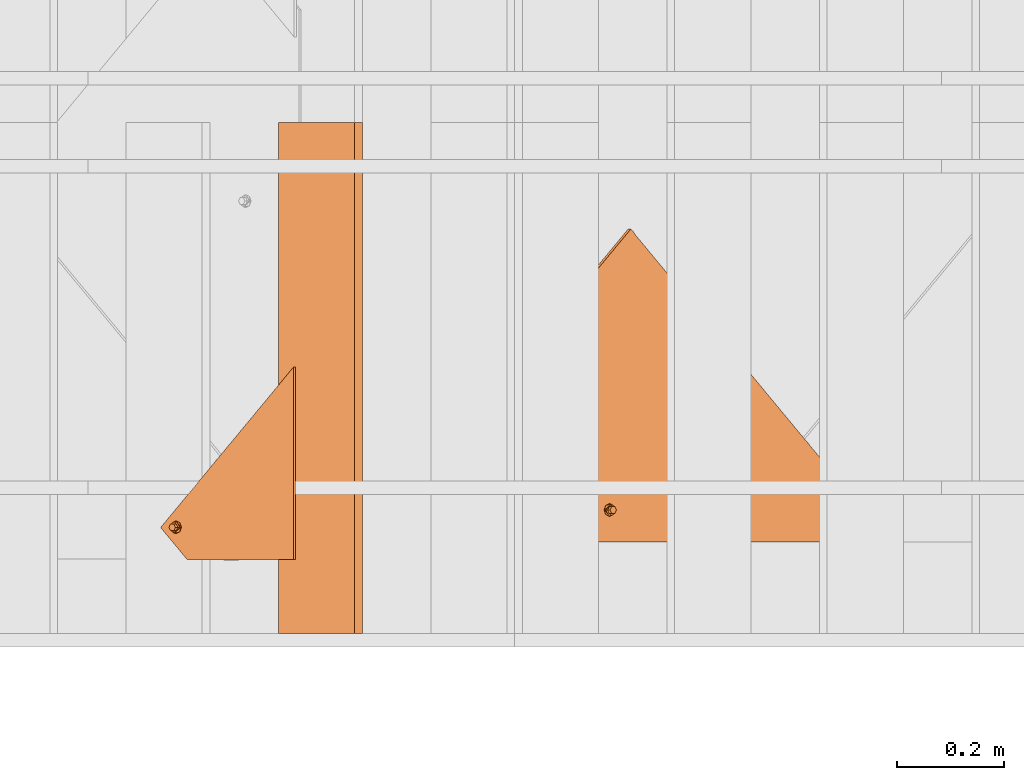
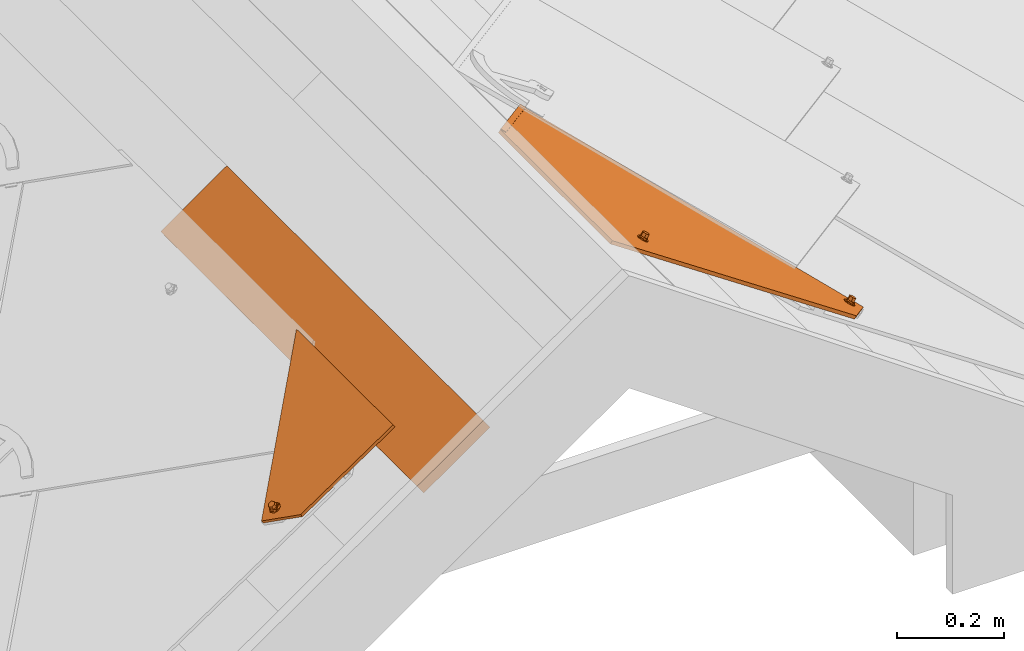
# One storey, part 98 of 133: 3 proxies, 1 element without a shape of its own.
"""IFC2X3 building model written with IfcOpenShell, lengths in millimetres."""

from ifc_helpers import new_model, entity, si_unit, converted_unit, derived_unit, direction, frame, frame_2d, origin, place, context, subcontext, project, spatial, rectangle, extrude, faceted_brep, source, transform, mapped, material, material_list, type_object, type_shapes, element, aggregate, save


model = new_model("IFC2X3")

# Units and contexts
model_context = context("Model", 3, precision=0.01, world=origin(), true_north=direction((6.12303176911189e-17, 1.0)))
body_context = subcontext(model_context, "Body", "Model", "MODEL_VIEW")
ifc_project = project(units=[si_unit("LENGTHUNIT", "METRE", prefix="MILLI"), si_unit("AREAUNIT", "SQUARE_METRE"), si_unit("VOLUMEUNIT", "CUBIC_METRE"), converted_unit("PLANEANGLEUNIT", "DEGREE", entity("IfcRatioMeasure", 0.0174532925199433), si_unit("PLANEANGLEUNIT", "RADIAN"), dimensions=[0, 0, 0, 0, 0, 0, 0]), si_unit("MASSUNIT", "GRAM", prefix="KILO"), derived_unit("MASSDENSITYUNIT", [(si_unit("MASSUNIT", "GRAM", prefix="KILO"), 1), (si_unit("LENGTHUNIT", "METRE"), -3)]), si_unit("TIMEUNIT", "SECOND"), si_unit("FREQUENCYUNIT", "HERTZ"), si_unit("THERMODYNAMICTEMPERATUREUNIT", "DEGREE_CELSIUS"), derived_unit("THERMALTRANSMITTANCEUNIT", [(si_unit("MASSUNIT", "GRAM", prefix="KILO"), 1), (si_unit("THERMODYNAMICTEMPERATUREUNIT", "KELVIN"), -1), (si_unit("TIMEUNIT", "SECOND"), -3)]), derived_unit("VOLUMETRICFLOWRATEUNIT", [(si_unit("LENGTHUNIT", "METRE"), 3), (si_unit("TIMEUNIT", "SECOND"), -1)]), si_unit("ELECTRICCURRENTUNIT", "AMPERE"), si_unit("ELECTRICVOLTAGEUNIT", "VOLT"), si_unit("POWERUNIT", "WATT"), si_unit("FORCEUNIT", "NEWTON", prefix="KILO"), si_unit("ILLUMINANCEUNIT", "LUX"), si_unit("LUMINOUSFLUXUNIT", "LUMEN"), si_unit("LUMINOUSINTENSITYUNIT", "CANDELA"), derived_unit("USERDEFINED", [(si_unit("MASSUNIT", "GRAM", prefix="KILO"), -1), (si_unit("LENGTHUNIT", "METRE"), -2), (si_unit("TIMEUNIT", "SECOND"), 3), (si_unit("LUMINOUSFLUXUNIT", "LUMEN"), 1)]), derived_unit("LINEARVELOCITYUNIT", [(si_unit("LENGTHUNIT", "METRE"), 1), (si_unit("TIMEUNIT", "SECOND"), -1)]), si_unit("PRESSUREUNIT", "PASCAL"), derived_unit("USERDEFINED", [(si_unit("LENGTHUNIT", "METRE"), -2), (si_unit("MASSUNIT", "GRAM", prefix="KILO"), 1), (si_unit("TIMEUNIT", "SECOND"), -2)])], contexts=[model_context])

# Site, building, storey
site_placement = place(None, origin())
site = spatial("IfcSite", under=ifc_project, at=site_placement, Name="Default", CompositionType="ELEMENT")
building_placement = place(site_placement, origin())
building = spatial("IfcBuilding", under=site, at=building_placement, CompositionType="ELEMENT")
storey_placement = place(building_placement, origin())
storey = spatial("IfcBuildingStorey", under=building, at=storey_placement, Name="Level 1", CompositionType="ELEMENT", Elevation=0.0)

# Assembly, proxy
assembly_placement = place(storey_placement, origin())
assembly = element("IfcElementAssembly", 1, at=assembly_placement, inside=storey, Name="Structural Framing Assembly:Roof Construction Assembly", ObjectType="Structural Framing Assembly:Roof Construction Assembly", AssemblyPlace="NOTDEFINED", PredefinedType="USERDEFINED")
ifc_material_1 = material(Name="Wood - Generic - Wood For Showcase")
building_element_proxy_type_1 = type_object("IfcBuildingElementProxyType", Name="Structural Framing 15", PredefinedType="NOTDEFINED", material=ifc_material_1)
shared_shape_1 = source(origin(), body_context, "Body", "SweptSolid", [
    extrude(rectangle(XDim=24.9999999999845, YDim=174.344679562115, at=frame_2d((-1.77635683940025e-13, -4.54747350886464e-13), x_axis=(0.0, 1.0))), frame((1128.20180147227, 2967.09519417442, 2760.23940055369), z_axis=(0.0, 1.0, 0.0), x_axis=(-0.819152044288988, 0.0, -0.573576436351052)), (0.0, 0.0, 1.0), 958.455607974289),
])
type_shapes(building_element_proxy_type_1, [shared_shape_1])
proxy_1_placement = place(assembly_placement, frame((-285.629601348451, -9670.0, -200.0)))
proxy_1 = element("IfcBuildingElementProxy", 2, at=proxy_1_placement, type_object=building_element_proxy_type_1, material=ifc_material_1, Name="Structural Framing 29:Structural Framing 15", ObjectType="Structural Framing 29:Structural Framing 15", context=body_context, shape_type="MappedRepresentation", body=[
    mapped(shared_shape_1, transform((0.0, 0.0, 0.0), scale=1.0)),
])
aggregate(assembly, [proxy_1])

# Proxies
ifc_material_2 = material(Name="Rubber - Sunstyle - Black")
ifc_material_3 = material(Name="Glass - Sunstyle - Tainted Black")
ifc_material_list_1 = material_list([ifc_material_2, ifc_material_3])
ifc_material_list_2 = material_list([ifc_material_2, ifc_material_3])
building_element_proxy_type_2 = type_object("IfcBuildingElementProxyType", Name="Corner Top Small Right - Black", PredefinedType="NOTDEFINED", material=ifc_material_list_2)
shared_shape_2 = source(origin(), body_context, "Body", "Brep", [
    faceted_brep([(300.309183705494, 41.6050579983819, 1.59527223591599), (294.534980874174, 38.2717878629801, 1.65109621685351), (294.534980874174, 38.6400969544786, 23.6429655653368), (300.309183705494, 41.9733670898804, 23.5871415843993), (294.534980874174, 31.6052475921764, 1.76274417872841), (294.534980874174, 31.9735566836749, 23.7546135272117), (300.309183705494, 28.2719774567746, 1.81856815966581), (300.309183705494, 28.640286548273, 23.8104375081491), (306.083386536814, 31.6052475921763, 1.7627441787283), (306.083386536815, 31.9735566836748, 23.7546135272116), (306.083386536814, 38.2717878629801, 1.65109621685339), (306.083386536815, 38.6400969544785, 23.6429655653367), (291.705479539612, 26.704328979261, 23.8428599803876), (300.309183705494, 23.1410577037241, 23.9025359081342), (288.141708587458, 35.3068268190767, 23.6987895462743), (291.705479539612, 43.9093246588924, 23.5547191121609), (300.309183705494, 47.4725959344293, 23.4950431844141), (308.912887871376, 43.9093246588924, 23.5547191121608), (312.476658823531, 35.3068268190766, 23.6987895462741), (308.912887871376, 26.704328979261, 23.8428599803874), (288.984939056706, 37.6019039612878, 26.0116314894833), (290.552709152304, 35.3778417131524, 27.9391141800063), (300.309183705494, 42.6909169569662, 28.5718145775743), (300.309183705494, 43.9314145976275, 27.9914679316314), (300.309183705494, 46.0889654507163, 26.98209285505), (300.309183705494, 23.6971017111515, 25.1775938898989), (300.309183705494, 24.6406783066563, 27.3412982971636), (300.309183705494, 28.0900540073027, 28.8163427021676), (300.309183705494, 46.9595598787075, 24.7880055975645), (293.985938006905, 31.7402697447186, 28.7552106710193), (293.985938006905, 39.0407012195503, 28.6329466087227), (311.633428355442, 33.0904837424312, 26.0871865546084), (310.15806385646, 34.3034352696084, 27.8602460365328), (306.632429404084, 39.0407012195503, 28.6329466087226), (306.632429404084, 31.7402697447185, 28.7552106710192), (293.985938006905, 31.8742982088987, 36.7580988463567), (300.309183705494, 28.224082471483, 36.8192308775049), (300.309183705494, 35.5245139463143, 36.6969668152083), (293.985938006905, 39.17472968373, 36.6358347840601), (306.632429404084, 31.8742982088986, 36.7580988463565), (306.632429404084, 39.1747296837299, 36.6358347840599), (300.309183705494, 42.8249454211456, 36.5747027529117), (300.309183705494, 34.9385177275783, 1.7069201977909)], [[[0, 1, 2, 3]], [[1, 4, 5, 2]], [[4, 6, 7, 5]], [[6, 8, 9, 7]], [[8, 10, 11, 9]], [[10, 0, 3, 11]], [[12, 7, 13]], [[7, 12, 5]], [[14, 5, 12]], [[5, 14, 2]], [[15, 2, 14]], [[3, 2, 15]], [[15, 16, 3]], [[16, 17, 3]], [[11, 3, 17]], [[11, 17, 18]], [[9, 11, 18]], [[18, 19, 9]], [[7, 9, 19]], [[19, 13, 7]], [[20, 14, 12]], [[21, 22, 23, 24]], [[24, 20, 21]], [[25, 20, 12]], [[26, 27, 21]], [[15, 14, 20]], [[12, 13, 25]], [[20, 28, 15]], [[28, 20, 24]], [[21, 27, 29]], [[21, 29, 30]], [[26, 21, 20]], [[20, 25, 26]], [[15, 28, 16]], [[21, 30, 22]], [[31, 18, 17]], [[28, 31, 17]], [[32, 27, 26]], [[26, 31, 32]], [[26, 25, 31]], [[25, 19, 31]], [[17, 16, 28]], [[31, 19, 18]], [[24, 31, 28]], [[33, 34, 32]], [[23, 22, 33]], [[24, 32, 31]], [[27, 32, 34]], [[32, 23, 33]], [[19, 25, 13]], [[32, 24, 23]], [[35, 36, 37]], [[37, 38, 35]], [[36, 39, 37]], [[40, 37, 39]], [[37, 40, 41]], [[37, 41, 38]], [[42, 6, 4]], [[4, 1, 42]], [[1, 0, 42]], [[42, 8, 6]], [[0, 10, 42]], [[8, 42, 10]], [[22, 30, 38, 41]], [[30, 29, 35, 38]], [[29, 27, 36, 35]], [[27, 34, 39, 36]], [[34, 33, 40, 39]], [[33, 22, 41, 40]]]),
    faceted_brep([(300.700466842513, 0.125588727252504, 24.1962208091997), (304.302649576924, 28.4261395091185, 23.7222570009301), (302.373201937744, 27.6270481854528, 23.7356397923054), (305.959503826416, 29.6973102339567, 23.7009680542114), (300.302649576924, 27.3544930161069, 23.7402044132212), (307.230852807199, 31.3539321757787, 23.6732237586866), (360.803898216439, 60.2121670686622, 23.189920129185), (298.232097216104, 27.6270481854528, 23.7356397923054), (296.302649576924, 28.4261395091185, 23.7222570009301), (294.645795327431, 29.6973102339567, 23.7009680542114), (293.374446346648, 31.3539321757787, 23.6732237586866), (292.575242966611, 33.2831092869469, 23.6409148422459), (0.0, 300.741739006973, 19.1616482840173), (308.030056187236, 33.2831092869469, 23.6409148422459), (308.302649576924, 35.3533713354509, 23.6062431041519), (308.030056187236, 37.4236333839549, 23.5715713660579), (307.230852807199, 39.3528104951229, 23.5392624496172), (305.959503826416, 41.0094324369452, 23.5115181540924), (304.302649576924, 42.2806031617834, 23.4902292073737), (302.373201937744, 43.079694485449, 23.4768464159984), (300.302649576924, 43.3522496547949, 23.4722817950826), (360.803898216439, 300.741739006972, 19.1616482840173), (298.232097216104, 43.079694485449, 23.4768464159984), (296.302649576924, 42.2806031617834, 23.4902292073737), (294.645795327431, 41.009432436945, 23.5115181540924), (292.302649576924, 35.3533713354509, 23.6062431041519), (292.575242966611, 37.4236333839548, 23.5715713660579), (293.374446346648, 39.3528104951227, 23.5392624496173), (300.302649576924, 43.2266609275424, 15.9733333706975), (360.803898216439, 300.616150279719, 11.6626998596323), (360.803898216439, 60.0865783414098, 15.6909717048), (302.373201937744, 42.9541057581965, 15.9778979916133), (298.232097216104, 42.9541057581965, 15.9778979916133), (296.302649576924, 42.1550144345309, 15.9912807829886), (0.0, 300.61615027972, 11.6626998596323), (294.645795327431, 40.8838437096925, 16.0125697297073), (293.374446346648, 39.2272217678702, 16.0403140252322), (292.575242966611, 37.2980446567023, 16.0726229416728), (292.302649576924, 35.2277826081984, 16.1072946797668), (292.575242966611, 33.1575205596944, 16.1419664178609), (300.700466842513, 0.0, 16.6972723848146), (293.374446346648, 31.2283434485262, 16.1742753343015), (294.645795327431, 29.5717215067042, 16.2020196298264), (296.302649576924, 28.300550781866, 16.2233085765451), (298.232097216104, 27.5014594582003, 16.2366913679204), (300.302649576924, 27.2289042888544, 16.2412559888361), (302.373201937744, 27.5014594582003, 16.2366913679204), (304.302649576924, 28.300550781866, 16.2233085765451), (305.959503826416, 29.5717215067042, 16.2020196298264), (307.230852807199, 31.2283434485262, 16.1742753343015), (308.030056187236, 33.1575205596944, 16.1419664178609), (308.302649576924, 35.2277826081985, 16.1072946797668), (308.030056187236, 37.2980446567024, 16.0726229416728), (307.230852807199, 39.2272217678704, 16.0403140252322), (305.959503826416, 40.8838437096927, 16.0125697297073), (304.302649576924, 42.1550144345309, 15.9912807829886)], [[[0, 1, 2]], [[1, 0, 3]], [[0, 2, 4]], [[5, 3, 0]], [[5, 0, 6]], [[4, 7, 0]], [[7, 8, 0]], [[8, 9, 0]], [[9, 10, 0]], [[10, 11, 0]], [[0, 11, 12]], [[6, 13, 5]], [[14, 13, 6]], [[15, 14, 6]], [[16, 15, 6]], [[17, 16, 6]], [[6, 18, 17]], [[19, 18, 6]], [[19, 6, 20]], [[6, 21, 20]], [[20, 21, 22]], [[23, 22, 21]], [[12, 23, 21]], [[23, 12, 24]], [[11, 25, 12]], [[26, 12, 25]], [[26, 27, 12]], [[27, 24, 12]], [[28, 29, 30]], [[28, 30, 31]], [[32, 29, 28]], [[32, 33, 29]], [[29, 33, 34]], [[33, 35, 34]], [[35, 36, 34]], [[36, 37, 34]], [[34, 37, 38]], [[38, 39, 34]], [[40, 34, 39]], [[39, 41, 40]], [[41, 42, 40]], [[42, 43, 40]], [[44, 40, 43]], [[44, 45, 40]], [[46, 40, 45]], [[40, 46, 47]], [[47, 48, 40]], [[48, 49, 40]], [[50, 30, 49]], [[30, 40, 49]], [[50, 51, 30]], [[30, 51, 52]], [[52, 53, 30]], [[53, 54, 30]], [[54, 55, 30]], [[31, 30, 55]], [[0, 12, 34, 40]], [[6, 0, 40, 30]], [[25, 38, 37, 26]], [[26, 37, 36, 27]], [[23, 24, 35, 33]], [[35, 24, 27, 36]], [[22, 23, 33, 32]], [[22, 32, 28, 20]], [[20, 28, 31, 19]], [[19, 31, 55, 18]], [[16, 17, 54, 53]], [[54, 17, 18, 55]], [[15, 16, 53, 52]], [[15, 52, 51, 14]], [[14, 51, 50, 13]], [[13, 50, 49, 5]], [[1, 3, 48, 47]], [[48, 3, 5, 49]], [[2, 1, 47, 46]], [[2, 46, 45, 4]], [[4, 45, 44, 7]], [[7, 44, 43, 8]], [[10, 9, 42, 41]], [[42, 9, 8, 43]], [[11, 10, 41, 39]], [[11, 39, 38, 25]], [[12, 21, 29, 34]], [[21, 6, 30, 29]]]),
])
type_shapes(building_element_proxy_type_2, [shared_shape_2])
proxy_2_placement = place(storey_placement, frame((556.843333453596, -6203.28833515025, 2378.37298232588), z_axis=(-0.57357643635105, 0.0, 0.819152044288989), x_axis=(0.0, -1.0, 0.0)))
element("IfcBuildingElementProxy", 3, at=proxy_2_placement, inside=storey, type_object=building_element_proxy_type_2, material=ifc_material_list_1, Name="Roofing_Panels_SunStyle_Tile_Corner-Top-Small-Right:Corner Top Small Right - Black", ObjectType="Roofing_Panels_SunStyle_Tile_Corner-Top-Small-Right:Corner Top Small Right - Black", context=body_context, shape_type="MappedRepresentation", body=[
    mapped(shared_shape_2, transform((0.0, 0.0, 0.0), scale=1.0)),
])
ifc_material_list_3 = material_list([ifc_material_2, ifc_material_3])
ifc_material_list_4 = material_list([ifc_material_2, ifc_material_3])
building_element_proxy_type_3 = type_object("IfcBuildingElementProxyType", Name="Corner Top Big Left - Black", PredefinedType="NOTDEFINED", material=ifc_material_list_4)
shared_shape_3 = source(origin(), body_context, "Body", "Brep", [
    faceted_brep([(0.0, -33.9825851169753, -4.47296585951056), (-5.7742028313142, -37.3158552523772, -4.41714187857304), (-5.77420283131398, -36.9475461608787, 17.5747274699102), (0.0, -33.6142760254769, 17.5189034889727), (-5.77420283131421, -43.9823955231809, -4.30549391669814), (-5.77420283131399, -43.6140864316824, 17.6863754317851), (0.0, -47.3156656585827, -4.24966993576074), (0.0, -46.9473565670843, 17.7421994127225), (5.77420283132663, -43.9823955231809, -4.30549391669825), (5.77420283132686, -43.6140864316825, 17.686375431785), (5.77420283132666, -37.3158552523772, -4.41714187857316), (5.77420283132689, -36.9475461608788, 17.5747274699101), (-8.60370416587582, -48.8833141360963, 17.774621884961), (0.0, -52.4465854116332, 17.8342978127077), (-12.1674751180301, -40.2808162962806, 17.6305514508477), (-8.60370416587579, -31.6783184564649, 17.4864810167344), (0.0, -28.115047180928, 17.4268050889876), (8.60370416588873, -31.6783184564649, 17.4864810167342), (12.167475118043, -40.2808162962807, 17.6305514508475), (8.60370416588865, -48.8833141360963, 17.7746218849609), (-11.3242446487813, -37.9857391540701, 19.9433933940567), (-9.75647455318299, -40.2098014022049, 21.8708760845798), (0.0, -32.8967261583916, 22.5035764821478), (0.0, -31.6562285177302, 21.9232298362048), (0.0, -29.4986776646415, 20.9138547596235), (0.0, -51.8905414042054, 19.1093557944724), (0.0, -50.9469648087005, 21.273060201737), (0.0, -47.4975891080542, 22.748104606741), (0.0, -28.6280832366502, 18.719767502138), (-6.32324569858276, -43.8473733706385, 22.6869725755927), (-6.32324569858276, -36.5469418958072, 22.5647085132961), (11.3242446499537, -42.4971593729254, 20.0189484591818), (9.84888015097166, -41.2842078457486, 21.7920079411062), (6.32324569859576, -36.5469418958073, 22.564708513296), (6.32324569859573, -43.8473733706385, 22.6869725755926), (-6.32324569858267, -43.7133449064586, 30.6898607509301), (0.0, -47.3635606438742, 30.7509927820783), (0.0, -40.063129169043, 30.6287287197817), (-6.32324569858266, -36.4129134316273, 30.5675966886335), (6.32324569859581, -43.7133449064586, 30.68986075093), (6.32324569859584, -36.4129134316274, 30.5675966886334), (0.0, -32.7626976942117, 30.5064646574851), (0.0, -40.649125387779, -4.36131789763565)], [[[0, 1, 2, 3]], [[1, 4, 5, 2]], [[4, 6, 7, 5]], [[6, 8, 9, 7]], [[8, 10, 11, 9]], [[10, 0, 3, 11]], [[12, 7, 13]], [[7, 12, 5]], [[14, 5, 12]], [[5, 14, 2]], [[15, 2, 14]], [[3, 2, 15]], [[15, 16, 3]], [[16, 17, 3]], [[11, 3, 17]], [[11, 17, 18]], [[9, 11, 18]], [[18, 19, 9]], [[7, 9, 19]], [[19, 13, 7]], [[20, 14, 12]], [[21, 22, 23, 24]], [[24, 20, 21]], [[25, 20, 12]], [[26, 27, 21]], [[15, 14, 20]], [[12, 13, 25]], [[20, 28, 15]], [[28, 20, 24]], [[21, 27, 29]], [[21, 29, 30]], [[26, 21, 20]], [[20, 25, 26]], [[15, 28, 16]], [[21, 30, 22]], [[31, 18, 17]], [[28, 31, 17]], [[32, 27, 26]], [[26, 31, 32]], [[26, 25, 31]], [[25, 19, 31]], [[17, 16, 28]], [[31, 19, 18]], [[24, 31, 28]], [[33, 34, 32]], [[23, 22, 33]], [[24, 32, 31]], [[27, 32, 34]], [[32, 23, 33]], [[19, 25, 13]], [[32, 24, 23]], [[35, 36, 37]], [[37, 38, 35]], [[36, 39, 37]], [[40, 37, 39]], [[37, 40, 41]], [[37, 41, 38]], [[42, 6, 4]], [[4, 1, 42]], [[1, 0, 42]], [[42, 8, 6]], [[0, 10, 42]], [[8, 42, 10]], [[22, 30, 38, 41]], [[30, 29, 35, 38]], [[29, 27, 36, 35]], [[27, 34, 39, 36]], [[34, 33, 40, 39]], [[33, 22, 41, 40]]]),
    faceted_brep([(0.0, -572.517457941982, 4.0063690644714), (-5.77420283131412, -575.850728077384, 4.06219304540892), (-5.77420283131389, -575.482418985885, 26.0540623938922), (0.0, -572.149148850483, 25.9982384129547), (-5.77420283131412, -582.517268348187, 4.17384100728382), (-5.7742028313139, -582.148959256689, 26.1657103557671), (0.0, -585.850538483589, 4.22966498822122), (0.0, -585.482229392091, 26.2215343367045), (5.77420283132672, -582.517268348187, 4.17384100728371), (5.77420283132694, -582.148959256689, 26.165710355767), (5.77420283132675, -575.850728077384, 4.0621930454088), (5.77420283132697, -575.482418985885, 26.0540623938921), (-8.60370416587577, -587.418186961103, 26.253956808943), (0.0, -590.98145823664, 26.3136327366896), (-12.1674751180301, -578.815689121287, 26.1098863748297), (-8.60370416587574, -570.213191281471, 25.9658159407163), (0.0, -566.649920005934, 25.9061400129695), (8.60370416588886, -570.213191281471, 25.9658159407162), (12.1674751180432, -578.815689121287, 26.1098863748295), (8.60370416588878, -587.418186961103, 26.2539568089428), (-11.3242446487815, -576.520611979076, 28.4227283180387), (-9.75647455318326, -578.744674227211, 30.3502110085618), (0.0, -571.431598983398, 30.9829114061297), (0.0, -570.191101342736, 30.4025647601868), (0.0, -568.033550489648, 29.3931896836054), (0.0, -590.425414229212, 27.5886907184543), (0.0, -589.481837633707, 29.752395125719), (0.0, -586.032461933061, 31.227439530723), (0.0, -567.162956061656, 27.1991024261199), (-6.32324569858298, -582.382246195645, 31.1663074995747), (-6.32324569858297, -575.081814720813, 31.0440434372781), (11.3242446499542, -581.032032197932, 28.4982833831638), (9.8488801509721, -579.819080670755, 30.2713428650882), (6.32324569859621, -575.081814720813, 31.044043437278), (6.32324569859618, -582.382246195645, 31.1663074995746), (-6.32324569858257, -582.248217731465, 39.1691956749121), (0.0, -585.898433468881, 39.2303277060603), (0.0, -578.598001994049, 39.1080636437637), (-6.32324569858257, -574.947786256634, 39.0469316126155), (6.32324569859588, -582.248217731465, 39.1691956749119), (6.32324569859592, -574.947786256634, 39.0469316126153), (0.0, -571.297570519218, 38.9857995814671), (0.0, -579.183998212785, 4.1180170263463)], [[[0, 1, 2, 3]], [[1, 4, 5, 2]], [[4, 6, 7, 5]], [[6, 8, 9, 7]], [[8, 10, 11, 9]], [[10, 0, 3, 11]], [[12, 7, 13]], [[7, 12, 5]], [[14, 5, 12]], [[5, 14, 2]], [[15, 2, 14]], [[3, 2, 15]], [[15, 16, 3]], [[16, 17, 3]], [[11, 3, 17]], [[11, 17, 18]], [[9, 11, 18]], [[18, 19, 9]], [[7, 9, 19]], [[19, 13, 7]], [[20, 14, 12]], [[21, 22, 23, 24]], [[24, 20, 21]], [[25, 20, 12]], [[26, 27, 21]], [[15, 14, 20]], [[12, 13, 25]], [[20, 28, 15]], [[28, 20, 24]], [[21, 27, 29]], [[21, 29, 30]], [[26, 21, 20]], [[20, 25, 26]], [[15, 28, 16]], [[21, 30, 22]], [[31, 18, 17]], [[28, 31, 17]], [[32, 27, 26]], [[26, 31, 32]], [[26, 25, 31]], [[25, 19, 31]], [[17, 16, 28]], [[31, 19, 18]], [[24, 31, 28]], [[33, 34, 32]], [[23, 22, 33]], [[24, 32, 31]], [[27, 32, 34]], [[32, 23, 33]], [[19, 25, 13]], [[32, 24, 23]], [[35, 36, 37]], [[37, 38, 35]], [[36, 39, 37]], [[40, 37, 39]], [[37, 40, 41]], [[37, 41, 38]], [[42, 6, 4]], [[4, 1, 42]], [[1, 0, 42]], [[42, 8, 6]], [[0, 10, 42]], [[8, 42, 10]], [[22, 30, 38, 41]], [[30, 29, 35, 38]], [[29, 27, 36, 35]], [[27, 34, 39, 36]], [[34, 33, 40, 39]], [[33, 22, 41, 40]]]),
    faceted_brep([(518.469870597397, -96.888376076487, 17.926263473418), (526.954557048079, -88.4036896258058, 17.7841660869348), (526.954557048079, -88.3785718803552, 19.2839557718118), (518.469870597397, -96.8632583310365, 19.426053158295), (349.749078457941, 71.7851066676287, 15.1014023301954), (358.233764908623, 80.2697931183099, 14.9593049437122), (358.233764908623, 80.2949108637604, 16.4590946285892), (349.749078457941, 71.8102244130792, 16.6011920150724)], [[[0, 1, 2, 3]], [[1, 0, 4, 5]], [[2, 1, 5, 6]], [[3, 2, 6, 7]], [[0, 3, 7, 4]], [[4, 7, 6, 5]]]),
    faceted_brep([(358.233764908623, 80.2697931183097, 14.9593049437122), (6.92820323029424, -35.9783347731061, 16.9061718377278), (7.72740661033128, -37.9075118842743, 16.9384807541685), (5.6568542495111, -34.321712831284, 16.8784275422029), (8.0, -39.9777739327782, 16.9731524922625), (7.72740661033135, -42.0480359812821, 17.0078242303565), (6.92820323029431, -43.9772130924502, 17.0401331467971), (526.954557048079, -88.4036896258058, 17.7841660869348), (-60.1037538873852, 80.269793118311, 14.9593049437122), (4.0, -33.0505421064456, 16.8571385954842), (2.07055236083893, -32.2514507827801, 16.8437558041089), (0.0, -31.9788956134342, 16.8391911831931), (-2.07055236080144, -32.2514507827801, 16.8437558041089), (-4.0, -33.0505421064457, 16.8571385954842), (-5.6568542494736, -34.321712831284, 16.8784275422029), (-6.92820323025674, -35.9783347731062, 16.9061718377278), (-7.72740661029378, -37.9075118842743, 16.9384807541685), (-8.0, -39.9777739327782, 16.9731524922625), (-7.72740661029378, -42.0480359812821, 17.0078242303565), (-60.1037538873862, -555.122942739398, 25.6005522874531), (-6.92820323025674, -43.9772130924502, 17.0401331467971), (-5.6568542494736, -45.6338350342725, 17.067877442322), (-4.0, -46.9050057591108, 17.0891663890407), (-2.07055236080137, -47.7040970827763, 17.102549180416), (0.0, -47.9766522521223, 17.1071138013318), (2.07055236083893, -47.7040970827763, 17.102549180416), (2.00505600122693, -570.990105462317, 25.8662877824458), (-0.0654963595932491, -570.717550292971, 25.8617231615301), (-2.13604872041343, -570.990105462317, 25.8662877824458), (-4.06549635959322, -571.789196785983, 25.8796705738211), (-5.7223506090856, -573.060367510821, 25.9009595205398), (-6.99369958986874, -574.716989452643, 25.9287038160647), (-7.79290296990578, -576.646166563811, 25.9610127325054), (-8.06549635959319, -578.716428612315, 25.9956844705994), (-7.79290296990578, -580.786690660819, 26.0303562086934), (-6.99369958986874, -582.715867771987, 26.062665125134), (0.00032251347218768, -615.210165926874, 26.6068637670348), (7.66191025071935, -580.786690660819, 26.0303562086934), (6.86270687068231, -582.715867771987, 26.062665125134), (5.59135788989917, -584.37248971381, 26.0904094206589), (3.93450364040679, -585.643660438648, 26.1116983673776), (2.005056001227, -586.442751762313, 26.1250811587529), (-0.0654963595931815, -586.715306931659, 26.1296457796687), (-2.13604872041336, -586.442751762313, 26.1250811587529), (-4.06549635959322, -585.643660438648, 26.1116983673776), (-5.7223506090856, -584.37248971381, 26.0904094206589), (3.93450364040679, -571.789196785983, 25.8796705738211), (4.0, -46.9050057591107, 17.0891663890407), (5.59135788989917, -573.060367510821, 25.9009595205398), (5.65685424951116, -45.6338350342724, 17.067877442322), (6.86270687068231, -574.716989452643, 25.9287038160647), (7.66191025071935, -576.646166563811, 25.9610127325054), (7.93450364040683, -578.716428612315, 25.9956844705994), (-60.1037538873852, 80.1442043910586, 7.46035651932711), (-6.92820323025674, -36.1039235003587, 9.40722341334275), (-7.72740661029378, -38.0331006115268, 9.4395323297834), (-5.6568542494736, -34.4473015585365, 9.37947911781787), (-8.0, -40.1033626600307, 9.4742040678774), (-7.72740661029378, -42.1736247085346, 9.5088758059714), (-60.1037538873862, -555.248531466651, 18.101603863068), (-4.0, -33.1761308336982, 9.35819017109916), (-2.07055236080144, -32.3770395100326, 9.34480737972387), (0.0, -32.1044843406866, 9.34024275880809), (2.07055236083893, -32.3770395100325, 9.34480737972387), (4.0, -33.1761308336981, 9.35819017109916), (5.6568542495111, -34.4473015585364, 9.37947911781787), (358.233764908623, 80.1442043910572, 7.46035651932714), (6.92820323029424, -36.1039235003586, 9.40722341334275), (7.72740661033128, -38.0331006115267, 9.4395323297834), (8.0, -40.1033626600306, 9.4742040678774), (7.72740661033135, -42.1736247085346, 9.5088758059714), (6.92820323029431, -44.1028018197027, 9.54118472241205), (526.954557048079, -88.5292783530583, 10.2852176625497), (5.65685424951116, -45.7594237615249, 9.56892901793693), (5.59135788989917, -573.185956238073, 18.4020110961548), (6.86270687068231, -574.842578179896, 18.4297553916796), (7.66191025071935, -576.771755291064, 18.4620643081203), (7.93450364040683, -578.842017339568, 18.4967360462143), (7.66191025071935, -580.912279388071, 18.5314077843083), (0.00032251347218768, -615.335754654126, 19.1079153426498), (-6.99369958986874, -582.84145649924, 18.563716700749), (-5.7223506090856, -584.498078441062, 18.5914609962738), (-4.06549635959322, -585.7692491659, 18.6127499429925), (-2.13604872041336, -586.568340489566, 18.6261327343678), (-0.0654963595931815, -586.840895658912, 18.6306973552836), (2.005056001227, -586.568340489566, 18.6261327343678), (3.93450364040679, -585.7692491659, 18.6127499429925), (5.59135788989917, -584.498078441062, 18.5914609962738), (6.86270687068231, -582.84145649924, 18.563716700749), (4.0, -47.0305944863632, 9.59021796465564), (3.93450364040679, -571.914785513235, 18.3807221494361), (2.07055236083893, -47.8296858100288, 9.60360075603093), (2.00505600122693, -571.115694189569, 18.3673393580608), (-0.0654963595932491, -570.843139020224, 18.362774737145), (-2.13604872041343, -571.11569418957, 18.3673393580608), (-4.06549635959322, -571.914785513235, 18.3807221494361), (-5.7223506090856, -573.185956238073, 18.4020110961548), (-6.99369958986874, -574.842578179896, 18.4297553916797), (-7.79290296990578, -576.771755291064, 18.4620643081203), (-8.06549635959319, -578.842017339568, 18.4967360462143), (-7.79290296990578, -580.912279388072, 18.5314077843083), (0.0, -48.1022409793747, 9.60816537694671), (-6.92820323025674, -44.1028018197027, 9.54118472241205), (-5.6568542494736, -45.7594237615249, 9.56892901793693), (-4.0, -47.0305944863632, 9.59021796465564), (-2.07055236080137, -47.8296858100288, 9.60360075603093)], [[[0, 1, 2]], [[1, 0, 3]], [[0, 2, 4]], [[4, 5, 0]], [[5, 6, 0]], [[7, 0, 6]], [[8, 3, 0]], [[8, 9, 3]], [[8, 10, 9]], [[11, 10, 8]], [[12, 11, 8]], [[13, 12, 8]], [[8, 14, 13]], [[14, 8, 15]], [[15, 8, 16]], [[17, 16, 8]], [[18, 17, 8]], [[18, 8, 19]], [[19, 20, 18]], [[21, 20, 19]], [[22, 21, 19]], [[23, 22, 19]], [[19, 24, 23]], [[19, 25, 24]], [[26, 25, 19]], [[26, 19, 27]], [[28, 27, 19]], [[29, 28, 19]], [[29, 19, 30]], [[19, 31, 30]], [[31, 19, 32]], [[32, 19, 33]], [[34, 33, 19]], [[35, 34, 19]], [[35, 19, 36]], [[7, 37, 36]], [[36, 37, 38]], [[39, 36, 38]], [[39, 40, 36]], [[41, 36, 40]], [[42, 36, 41]], [[42, 43, 36]], [[43, 44, 36]], [[45, 35, 36]], [[45, 36, 44]], [[25, 26, 46]], [[46, 47, 25]], [[48, 47, 46]], [[48, 49, 47]], [[50, 7, 48]], [[48, 7, 49]], [[7, 50, 51]], [[7, 51, 52]], [[52, 37, 7]], [[7, 6, 49]], [[53, 54, 55]], [[54, 53, 56]], [[53, 55, 57]], [[58, 53, 57]], [[53, 58, 59]], [[60, 56, 53]], [[61, 60, 53]], [[53, 62, 61]], [[62, 53, 63]], [[63, 53, 64]], [[53, 65, 64]], [[65, 53, 66]], [[66, 67, 65]], [[67, 66, 68]], [[68, 66, 69]], [[70, 69, 66]], [[71, 70, 66]], [[71, 66, 72]], [[72, 73, 71]], [[73, 72, 74]], [[74, 72, 75]], [[75, 72, 76]], [[77, 76, 72]], [[78, 77, 72]], [[78, 72, 79]], [[59, 80, 79]], [[79, 80, 81]], [[79, 81, 82]], [[82, 83, 79]], [[83, 84, 79]], [[79, 84, 85]], [[79, 85, 86]], [[86, 87, 79]], [[79, 87, 88]], [[79, 88, 78]], [[73, 74, 89]], [[90, 89, 74]], [[90, 91, 89]], [[91, 90, 92]], [[93, 59, 92]], [[92, 59, 91]], [[93, 94, 59]], [[94, 95, 59]], [[95, 96, 59]], [[97, 59, 96]], [[97, 98, 59]], [[98, 99, 59]], [[99, 100, 59]], [[100, 80, 59]], [[59, 101, 91]], [[102, 59, 58]], [[102, 103, 59]], [[103, 104, 59]], [[104, 105, 59]], [[59, 105, 101]], [[36, 19, 59, 79]], [[7, 36, 79, 72]], [[0, 7, 72, 66]], [[33, 99, 98, 32]], [[32, 98, 97, 31]], [[29, 30, 96, 95]], [[96, 30, 31, 97]], [[28, 29, 95, 94]], [[28, 94, 93, 27]], [[27, 93, 92, 26]], [[26, 92, 90, 46]], [[50, 48, 74, 75]], [[74, 48, 46, 90]], [[51, 50, 75, 76]], [[51, 76, 77, 52]], [[52, 77, 78, 37]], [[37, 78, 88, 38]], [[40, 39, 87, 86]], [[87, 39, 38, 88]], [[41, 40, 86, 85]], [[41, 85, 84, 42]], [[42, 84, 83, 43]], [[43, 83, 82, 44]], [[35, 45, 81, 80]], [[81, 45, 44, 82]], [[34, 35, 80, 100]], [[34, 100, 99, 33]], [[17, 57, 55, 16]], [[16, 55, 54, 15]], [[13, 14, 56, 60]], [[56, 14, 15, 54]], [[12, 13, 60, 61]], [[12, 61, 62, 11]], [[11, 62, 63, 10]], [[10, 63, 64, 9]], [[1, 3, 65, 67]], [[65, 3, 9, 64]], [[2, 1, 67, 68]], [[2, 68, 69, 4]], [[4, 69, 70, 5]], [[5, 70, 71, 6]], [[47, 49, 73, 89]], [[73, 49, 6, 71]], [[25, 47, 89, 91]], [[25, 91, 101, 24]], [[24, 101, 105, 23]], [[23, 105, 104, 22]], [[20, 21, 103, 102]], [[103, 21, 22, 104]], [[18, 20, 102, 58]], [[18, 58, 57, 17]], [[19, 8, 53, 59]], [[8, 0, 66, 53]]]),
])
type_shapes(building_element_proxy_type_3, [shared_shape_3])
proxy_3_placement = place(storey_placement, frame((1341.22273459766, -6471.26725233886, 2736.38078335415), z_axis=(0.573576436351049, 0.0, 0.81915204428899), x_axis=(0.0, 1.0, 0.0)))
element("IfcBuildingElementProxy", 4, at=proxy_3_placement, inside=storey, type_object=building_element_proxy_type_3, material=ifc_material_list_3, Name="Roofing_Panels_SunStyle_Tile_Corner-Top-Big-Left:Corner Top Big Left - Black", ObjectType="Roofing_Panels_SunStyle_Tile_Corner-Top-Big-Left:Corner Top Big Left - Black", context=body_context, shape_type="MappedRepresentation", body=[
    mapped(shared_shape_3, transform((0.0, 0.0, 0.0), scale=1.0)),
])

save(model, "model.ifc")
